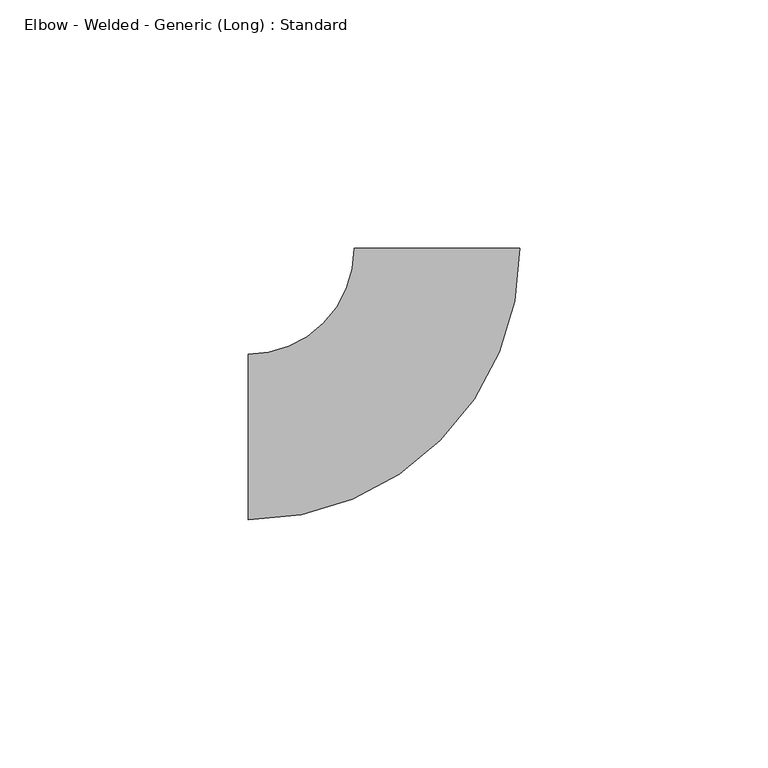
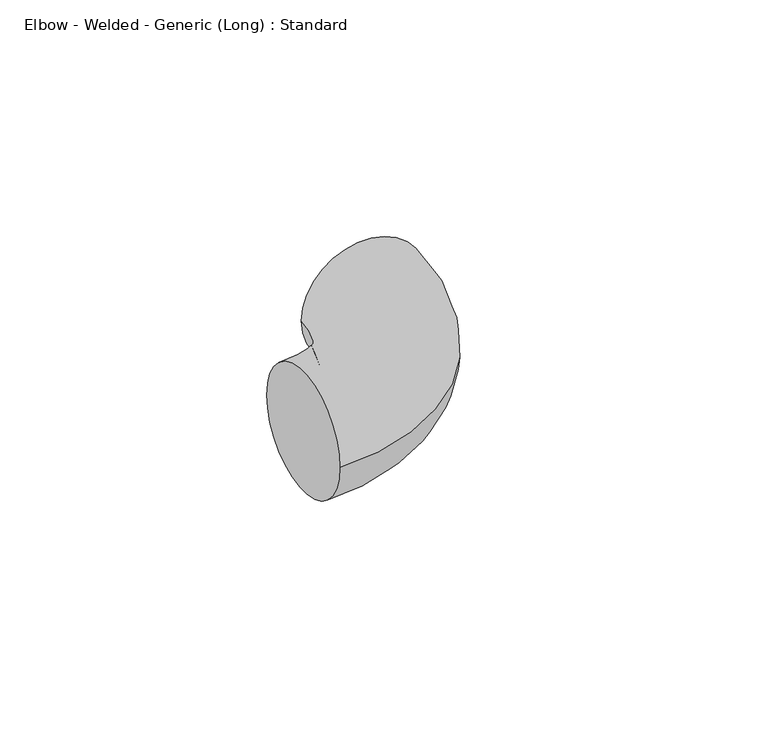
"""IFC4 building model written with IfcOpenShell, lengths in millimetres: pipe fitting geometry, Elbow - Welded - Generic (Long) : Standard."""

from ifc_helpers import new_model, si_unit, point, frame, origin, place, context, project, spatial, circle_curve, ellipse_curve, trimmed, source, transform, mapped, element, save
from ifc_brep_helpers import plane_surface, revolved_surface, advanced_brep


def elbow_welded_generic_long_standard_443ed3fe(model_context):
    return source(origin(), model_context, "Body", "AdvancedBrep", [
        advanced_brep(
        [(-38.1, -16.66875, 0.0), (-38.1, 16.66875, 0.0), (16.6636068, 38.1022498, 0.0), (-16.6738929, 38.0977496, 0.0)],
        [
            (0, 1, circle_curve(frame((-38.1, 0.0, 0.0), z_axis=(-1.0, 0.0, 0.0), x_axis=(0.0, 1.0, 0.0)), 16.66875)),
            (1, 0, circle_curve(frame((-38.1, 0.0, 0.0), z_axis=(-1.0, 0.0, 0.0), x_axis=(0.0, 1.0, 0.0)), 16.66875)),
            (2, 3, circle_curve(frame((-0.0051431, 38.0999997, 0.0), z_axis=(-0.00013498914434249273, 0.9999999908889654, 0.0), x_axis=(-0.9999999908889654, -0.00013498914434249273, 0.0)), 16.66875)),
            (3, 2, circle_curve(frame((-0.0051431, 38.0999997, 0.0), z_axis=(-0.00013498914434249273, 0.9999999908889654, 0.0), x_axis=(-0.9999999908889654, -0.00013498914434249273, 0.0)), 16.66875)),
            (3, 1, circle_curve(frame((-38.1, 38.0948573, 0.0), z_axis=(0.0, 0.0, -1.0), x_axis=(0.0, -1.0, 0.0)), 21.4261073)),
            (0, 2, circle_curve(frame((-38.1, 38.0948573, 0.0), z_axis=(0.0, 0.0, 1.0), x_axis=(0.0, -1.0, 0.0)), 54.7636073)),
        ],
        [
            plane_surface(frame((-38.1, 0.0, 0.0), z_axis=(-1.0, 0.0, 0.0), x_axis=(0.0, 0.0, 1.0))),
            plane_surface(frame((-0.0051431, 38.0999997, 0.0), z_axis=(-0.0001349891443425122, 0.9999999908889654, 0.0), x_axis=(0.0, 0.0, 1.0))),
            revolved_surface(trimmed(ellipse_curve(frame((-38.1, 0.0, 0.0), z_axis=(-1.0, 0.0, 0.0), x_axis=(0.0, 1.0, 0.0)), 16.66875, 16.66875), [point((-38.1, -16.66875, 0.0))], [point((-38.1, 16.66875, 0.0))], True, "CARTESIAN"), (-38.1, 38.0948573, 0.0), (0.0, 0.0, 1.0)),
            revolved_surface(trimmed(ellipse_curve(frame((-38.1, 0.0, 0.0), z_axis=(-1.0, 0.0, 0.0), x_axis=(0.0, 1.0, 0.0)), 16.66875, 16.66875), [point((-38.1, 16.66875, 0.0))], [point((-38.1, -16.66875, 0.0))], True, "CARTESIAN"), (-38.1, 38.0948573, 0.0), (0.0, 0.0, 1.0)),
        ],
        [
            (0, [[1, 2]]),
            (1, [[3, 4]]),
            (2, [[5, -1, 6, -4]]),
            (3, [[-6, -2, -5, -3]]),
        ],
    ),
    ])


if __name__ == "__main__":
    model = new_model("IFC4")
    model_context = context("Model", 3, world=origin())
    ifc_project = project(units=[si_unit("LENGTHUNIT", "METRE", prefix="MILLI")], contexts=[model_context])
    site = spatial("IfcSite", under=ifc_project)
    building = spatial("IfcBuilding", under=site)
    placement = place(None, origin())
    elbow_welded_generic_long_standard_shape = elbow_welded_generic_long_standard_443ed3fe(model_context)
    element("IfcPipeFitting", 1, ObjectType="Elbow - Welded - Generic (Long) : Standard", at=placement, inside=building, context=model_context, shape_type="MappedRepresentation", body=[
        mapped(elbow_welded_generic_long_standard_shape, transform((0.0, 0.0, 0.0), x_axis=(1.0, 0.0, 0.0), y_axis=(0.0, 1.0, 0.0), z_axis=(0.0, 0.0, 1.0))),
    ])
    save(model, "model.ifc")
